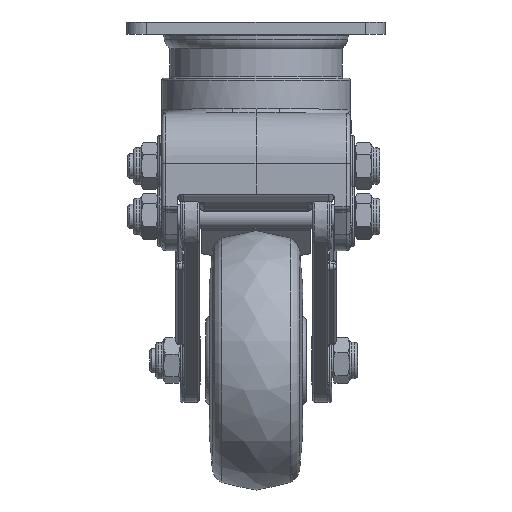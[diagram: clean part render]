
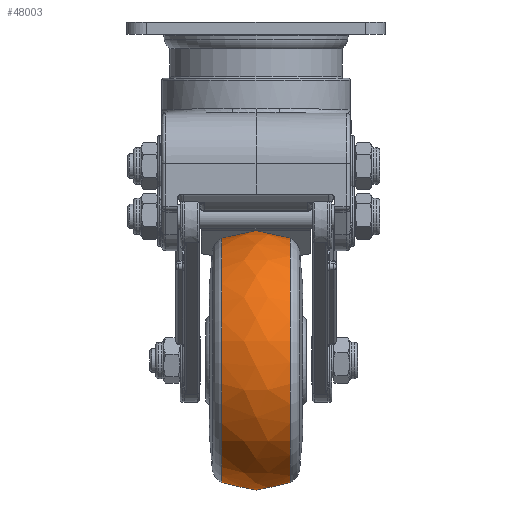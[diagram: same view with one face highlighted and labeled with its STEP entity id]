
A CAD part, left-side view. The second image highlights one B-rep face of the part: STEP entity #48003.
In plain terms, the highlighted free-form (B-spline) face has degree [2, 2] with [3, 9] control points.
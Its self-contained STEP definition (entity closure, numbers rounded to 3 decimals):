
#18=(
BOUNDED_SURFACE()
B_SPLINE_SURFACE(2,2,((#85980,#85981,#85982,#85983,#85984,#85985,#85986,
#85987,#85988),(#85989,#85990,#85991,#85992,#85993,#85994,#85995,#85996,
#85997),(#85998,#85999,#86000,#86001,#86002,#86003,#86004,#86005,#86006)),
 .UNSPECIFIED.,.F.,.T.,.F.)
B_SPLINE_SURFACE_WITH_KNOTS((3,3),(3,2,2,2,3),(-0.438,0.438),
(-3.142,-1.571,0.,1.571,3.142),
 .UNSPECIFIED.)
GEOMETRIC_REPRESENTATION_ITEM()
RATIONAL_B_SPLINE_SURFACE(((1.,0.707,1.,0.707,1.,
0.707,1.,0.707,1.),(0.906,0.64,
0.906,0.64,0.906,0.64,
0.906,0.64,0.906),(1.,0.707,
1.,0.707,1.,0.707,1.,0.707,1.)))
REPRESENTATION_ITEM('')
SURFACE()
);
#5264=CIRCLE('',#51740,30.112);
#5265=CIRCLE('',#51741,30.112);
#5276=CIRCLE('',#51758,30.112);
#5277=CIRCLE('',#51759,30.112);
#5279=CIRCLE('',#51761,20.);
#7564=FACE_OUTER_BOUND('',#10359,.T.);
#10359=EDGE_LOOP('',(#38879,#38880,#38881,#38882,#38883,#38884));
#20714=VERTEX_POINT('',#85941);
#20715=VERTEX_POINT('',#85943);
#20726=VERTEX_POINT('',#85975);
#20727=VERTEX_POINT('',#85976);
#26935=EDGE_CURVE('',#20714,#20715,#5264,.T.);
#26936=EDGE_CURVE('',#20715,#20714,#5265,.T.);
#26950=EDGE_CURVE('',#20726,#20727,#5276,.T.);
#26951=EDGE_CURVE('',#20727,#20726,#5277,.T.);
#26953=EDGE_CURVE('',#20714,#20727,#5279,.T.);
#38879=ORIENTED_EDGE('',*,*,#26936,.F.);
#38880=ORIENTED_EDGE('',*,*,#26935,.F.);
#38881=ORIENTED_EDGE('',*,*,#26953,.T.);
#38882=ORIENTED_EDGE('',*,*,#26951,.T.);
#38883=ORIENTED_EDGE('',*,*,#26950,.T.);
#38884=ORIENTED_EDGE('',*,*,#26953,.F.);
#48003=ADVANCED_FACE('',(#7564),#18,.F.);
#51740=AXIS2_PLACEMENT_3D('',#85944,#61001,#61002);
#51741=AXIS2_PLACEMENT_3D('',#85945,#61003,#61004);
#51758=AXIS2_PLACEMENT_3D('',#85977,#61040,#61041);
#51759=AXIS2_PLACEMENT_3D('',#85978,#61042,#61043);
#51761=AXIS2_PLACEMENT_3D('',#86007,#61046,#61047);
#61001=DIRECTION('center_axis',(0.,-1.,0.));
#61002=DIRECTION('ref_axis',(-0.325,0.,-0.946));
#61003=DIRECTION('center_axis',(0.,-1.,0.));
#61004=DIRECTION('ref_axis',(-0.325,0.,-0.946));
#61040=DIRECTION('center_axis',(0.,-1.,0.));
#61041=DIRECTION('ref_axis',(-0.325,0.,-0.946));
#61042=DIRECTION('center_axis',(0.,-1.,0.));
#61043=DIRECTION('ref_axis',(-0.325,0.,-0.946));
#61046=DIRECTION('center_axis',(-0.946,0.,
0.325));
#61047=DIRECTION('ref_axis',(0.325,0.,0.946));
#85941=CARTESIAN_POINT('',(22.419,-11.304,-45.166));
#85943=CARTESIAN_POINT('',(2.855,-11.304,-102.124));
#85944=CARTESIAN_POINT('Origin',(12.637,-11.304,-73.645));
#85945=CARTESIAN_POINT('Origin',(12.637,-11.304,-73.645));
#85975=CARTESIAN_POINT('',(2.855,5.66,-102.124));
#85976=CARTESIAN_POINT('',(22.419,5.66,-45.166));
#85977=CARTESIAN_POINT('Origin',(12.637,5.66,-73.645));
#85978=CARTESIAN_POINT('Origin',(12.637,5.66,-73.645));
#85980=CARTESIAN_POINT('Ctrl Pts',(22.419,5.66,-45.166));
#85981=CARTESIAN_POINT('Ctrl Pts',(-6.06,5.66,-35.384));
#85982=CARTESIAN_POINT('Ctrl Pts',(-15.842,5.66,-63.863));
#85983=CARTESIAN_POINT('Ctrl Pts',(-25.624,5.66,-92.342));
#85984=CARTESIAN_POINT('Ctrl Pts',(2.855,5.66,-102.124));
#85985=CARTESIAN_POINT('Ctrl Pts',(31.334,5.66,-111.906));
#85986=CARTESIAN_POINT('Ctrl Pts',(41.116,5.66,-83.427));
#85987=CARTESIAN_POINT('Ctrl Pts',(50.898,5.66,-54.948));
#85988=CARTESIAN_POINT('Ctrl Pts',(22.419,5.66,-45.166));
#85989=CARTESIAN_POINT('Ctrl Pts',(23.71,-2.822,-41.409));
#85990=CARTESIAN_POINT('Ctrl Pts',(-8.526,-2.822,
-30.337));
#85991=CARTESIAN_POINT('Ctrl Pts',(-19.599,-2.822,
-62.572));
#85992=CARTESIAN_POINT('Ctrl Pts',(-30.671,-2.822,
-94.808));
#85993=CARTESIAN_POINT('Ctrl Pts',(1.564,-2.822,-105.881));
#85994=CARTESIAN_POINT('Ctrl Pts',(33.8,-2.822,-116.954));
#85995=CARTESIAN_POINT('Ctrl Pts',(44.873,-2.822,-84.718));
#85996=CARTESIAN_POINT('Ctrl Pts',(55.946,-2.822,-52.482));
#85997=CARTESIAN_POINT('Ctrl Pts',(23.71,-2.822,-41.409));
#85998=CARTESIAN_POINT('Ctrl Pts',(22.419,-11.304,-45.166));
#85999=CARTESIAN_POINT('Ctrl Pts',(-6.06,-11.304,
-35.384));
#86000=CARTESIAN_POINT('Ctrl Pts',(-15.842,-11.304,
-63.863));
#86001=CARTESIAN_POINT('Ctrl Pts',(-25.624,-11.304,
-92.342));
#86002=CARTESIAN_POINT('Ctrl Pts',(2.855,-11.304,-102.124));
#86003=CARTESIAN_POINT('Ctrl Pts',(31.334,-11.304,-111.906));
#86004=CARTESIAN_POINT('Ctrl Pts',(41.116,-11.304,-83.427));
#86005=CARTESIAN_POINT('Ctrl Pts',(50.898,-11.304,-54.948));
#86006=CARTESIAN_POINT('Ctrl Pts',(22.419,-11.304,-45.166));
#86007=CARTESIAN_POINT('Origin',(16.535,-2.822,-62.296));
